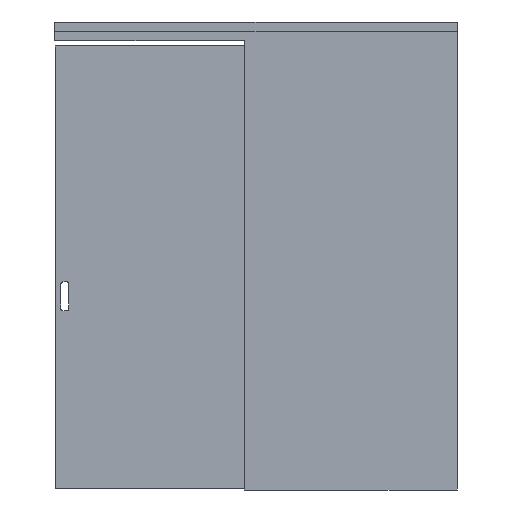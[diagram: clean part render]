
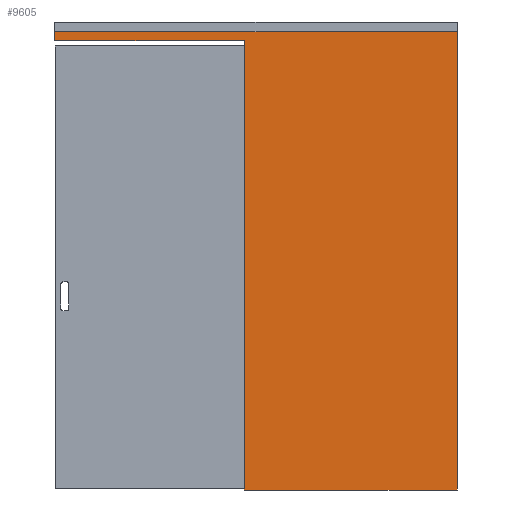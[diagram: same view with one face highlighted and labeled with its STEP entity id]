
A CAD part, front view. The second image highlights one B-rep face of the part: STEP entity #9605.
In plain terms, the highlighted planar face has unit normal (0, -1, 0).
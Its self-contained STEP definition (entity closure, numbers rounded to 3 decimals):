
#9605=ADVANCED_FACE('',(#16343),#16344,.F.);
#16343=FACE_OUTER_BOUND('',#26418,.T.);
#16344=PLANE('',#26419);
#26418=EDGE_LOOP('',(#30429,#30430,#30431,#30432,#30433,#30434));
#26419=AXIS2_PLACEMENT_3D('',#30435,#30436,#30437);
#30429=ORIENTED_EDGE('',*,*,#38750,.T.);
#30430=ORIENTED_EDGE('',*,*,#38740,.F.);
#30431=ORIENTED_EDGE('',*,*,#38744,.F.);
#30432=ORIENTED_EDGE('',*,*,#38748,.T.);
#30433=ORIENTED_EDGE('',*,*,#38751,.F.);
#30434=ORIENTED_EDGE('',*,*,#38752,.F.);
#30435=CARTESIAN_POINT('',(0.0,-46.5,2333.0));
#30436=DIRECTION('',(0.0,1.0,-0.0));
#30437=DIRECTION('',(0.0,0.0,1.0));
#38740=EDGE_CURVE('',#43610,#43605,#43612,.T.);
#38744=EDGE_CURVE('',#43616,#43610,#43618,.T.);
#38748=EDGE_CURVE('',#43616,#43622,#43624,.T.);
#38750=EDGE_CURVE('',#43626,#43605,#43627,.T.);
#38751=EDGE_CURVE('',#43628,#43622,#43629,.T.);
#38752=EDGE_CURVE('',#43626,#43628,#43630,.T.);
#43605=VERTEX_POINT('',#45019);
#43610=VERTEX_POINT('',#45026);
#43612=LINE('',#45029,#45030);
#43616=VERTEX_POINT('',#45035);
#43618=LINE('',#45038,#45039);
#43622=VERTEX_POINT('',#45044);
#43624=LINE('',#45047,#45048);
#43626=VERTEX_POINT('',#45050);
#43627=LINE('',#45051,#45052);
#43628=VERTEX_POINT('',#45053);
#43629=LINE('',#45054,#45055);
#43630=LINE('',#45056,#45057);
#45019=CARTESIAN_POINT('',(980.0,-46.5,2321.5));
#45026=CARTESIAN_POINT('',(980.0,-46.5,0.));
#45029=CARTESIAN_POINT('',(980.0,-46.5,7.));
#45030=VECTOR('',#46885,1.0);
#45035=CARTESIAN_POINT('',(2080.0,-46.5,0.));
#45038=CARTESIAN_POINT('',(1327.5,-46.5,0.));
#45039=VECTOR('',#46888,1.0);
#45044=CARTESIAN_POINT('',(2080.0,-46.5,2368.0));
#45047=CARTESIAN_POINT('',(2080.0,-46.5,7.));
#45048=VECTOR('',#46891,1.0);
#45050=CARTESIAN_POINT('',(0.0,-46.5,2321.5));
#45051=CARTESIAN_POINT('',(0.0,-46.5,2321.5));
#45052=VECTOR('',#46892,1.0);
#45053=CARTESIAN_POINT('',(0.0,-46.5,2368.0));
#45054=CARTESIAN_POINT('',(1270.0,-46.5,2368.0));
#45055=VECTOR('',#46893,1.0);
#45056=CARTESIAN_POINT('',(0.0,-46.5,2301.0));
#45057=VECTOR('',#46894,1.0);
#46885=DIRECTION('',(0.0,0.0,1.0));
#46888=DIRECTION('',(-1.0,0.0,0.0));
#46891=DIRECTION('',(0.0,0.0,1.0));
#46892=DIRECTION('',(1.0,0.0,0.0));
#46893=DIRECTION('',(1.0,0.0,0.0));
#46894=DIRECTION('',(0.0,0.0,1.0));
